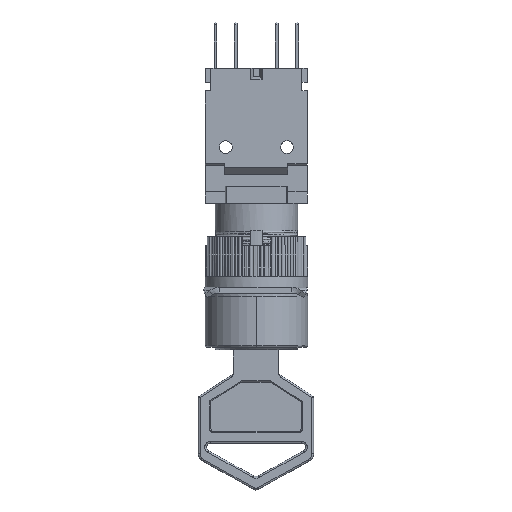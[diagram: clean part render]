
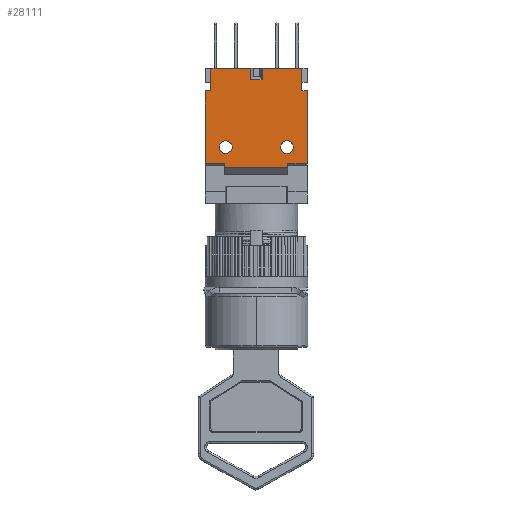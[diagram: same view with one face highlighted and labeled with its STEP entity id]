
A CAD part, front view. The second image highlights one B-rep face of the part: STEP entity #28111.
In plain terms, the highlighted planar face has unit normal (0, -1, 0).
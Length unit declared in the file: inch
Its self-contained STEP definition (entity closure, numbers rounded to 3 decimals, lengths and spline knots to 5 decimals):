
#7175=DIRECTION('',(0.,0.,1.));
#7176=VECTOR('',#7175,4.);
#7177=CARTESIAN_POINT('',(17.15,0.15,-12.2));
#7178=LINE('',#7177,#7176);
#7259=DIRECTION('',(-1.,0.,0.));
#7260=VECTOR('',#7259,1.);
#7261=CARTESIAN_POINT('',(18.15,0.15,-12.2));
#7262=LINE('',#7261,#7260);
#7275=DIRECTION('',(1.,0.,0.));
#7276=VECTOR('',#7275,7.05);
#7277=CARTESIAN_POINT('',(10.1,0.15,-8.2));
#7278=LINE('',#7277,#7276);
#7279=DIRECTION('',(0.,0.,-1.));
#7280=VECTOR('',#7279,12.9);
#7281=CARTESIAN_POINT('',(18.15,0.15,-12.2));
#7282=LINE('',#7281,#7280);
#7283=DIRECTION('',(0.,0.,-1.));
#7284=VECTOR('',#7283,0.75);
#7285=CARTESIAN_POINT('',(14.65,0.15,-25.1));
#7286=LINE('',#7285,#7284);
#7287=DIRECTION('',(0.,0.,1.));
#7288=VECTOR('',#7287,12.9);
#7289=CARTESIAN_POINT('',(0.05,0.15,-25.1));
#7290=LINE('',#7289,#7288);
#7291=DIRECTION('',(0.,0.,1.));
#7292=VECTOR('',#7291,4.);
#7293=CARTESIAN_POINT('',(1.05,0.15,-12.2));
#7294=LINE('',#7293,#7292);
#7295=DIRECTION('',(1.,0.,0.));
#7296=VECTOR('',#7295,7.05);
#7297=CARTESIAN_POINT('',(1.05,0.15,-8.2));
#7298=LINE('',#7297,#7296);
#7299=CARTESIAN_POINT('',(14.525,0.15,-22.165));
#7300=DIRECTION('',(0.,-1.,0.));
#7301=DIRECTION('',(-1.,0.,0.));
#7302=AXIS2_PLACEMENT_3D('',#7299,#7300,#7301);
#7304=CARTESIAN_POINT('',(14.525,0.15,-22.165));
#7305=DIRECTION('',(0.,-1.,0.));
#7306=DIRECTION('',(1.,0.,0.));
#7307=AXIS2_PLACEMENT_3D('',#7304,#7305,#7306);
#7309=CARTESIAN_POINT('',(3.675,0.15,-22.165));
#7310=DIRECTION('',(0.,-1.,0.));
#7311=DIRECTION('',(-1.,0.,0.));
#7312=AXIS2_PLACEMENT_3D('',#7309,#7310,#7311);
#7314=CARTESIAN_POINT('',(3.675,0.15,-22.165));
#7315=DIRECTION('',(0.,-1.,0.));
#7316=DIRECTION('',(1.,0.,0.));
#7317=AXIS2_PLACEMENT_3D('',#7314,#7315,#7316);
#7319=DIRECTION('',(0.,0.,-1.));
#7320=VECTOR('',#7319,2.);
#7321=CARTESIAN_POINT('',(10.1,0.15,-8.2));
#7322=LINE('',#7321,#7320);
#7323=DIRECTION('',(-1.,0.,0.));
#7324=VECTOR('',#7323,2.);
#7325=CARTESIAN_POINT('',(10.1,0.15,-10.2));
#7326=LINE('',#7325,#7324);
#7335=DIRECTION('',(0.,0.,1.));
#7336=VECTOR('',#7335,2.);
#7337=CARTESIAN_POINT('',(8.1,0.15,-10.2));
#7338=LINE('',#7337,#7336);
#7359=DIRECTION('',(1.,0.,0.));
#7360=VECTOR('',#7359,3.5);
#7361=CARTESIAN_POINT('',(14.65,0.15,-25.1));
#7362=LINE('',#7361,#7360);
#11698=DIRECTION('',(1.,0.,0.));
#11699=VECTOR('',#11698,3.4);
#11700=CARTESIAN_POINT('',(0.05,0.15,-25.1));
#11701=LINE('',#11700,#11699);
#11710=DIRECTION('',(0.,0.,-1.));
#11711=VECTOR('',#11710,0.75);
#11712=CARTESIAN_POINT('',(3.45,0.15,-25.1));
#11713=LINE('',#11712,#11711);
#11718=DIRECTION('',(1.,0.,0.));
#11719=VECTOR('',#11718,11.2);
#11720=CARTESIAN_POINT('',(3.45,0.15,-25.85));
#11721=LINE('',#11720,#11719);
#11766=DIRECTION('',(-1.,0.,0.));
#11767=VECTOR('',#11766,1.);
#11768=CARTESIAN_POINT('',(1.05,0.15,-12.2));
#11769=LINE('',#11768,#11767);
#17348=CARTESIAN_POINT('',(18.15,0.15,-25.1));
#17349=VERTEX_POINT('',#17348);
#17350=CARTESIAN_POINT('',(18.15,0.15,-12.2));
#17351=VERTEX_POINT('',#17350);
#17390=CARTESIAN_POINT('',(17.15,0.15,-8.2));
#17391=VERTEX_POINT('',#17390);
#17392=CARTESIAN_POINT('',(10.1,0.15,-8.2));
#17393=VERTEX_POINT('',#17392);
#17398=CARTESIAN_POINT('',(8.1,0.15,-8.2));
#17399=VERTEX_POINT('',#17398);
#17400=CARTESIAN_POINT('',(1.05,0.15,-8.2));
#17401=VERTEX_POINT('',#17400);
#18034=CARTESIAN_POINT('',(14.65,0.15,-25.1));
#18035=CARTESIAN_POINT('',(14.65,0.15,-25.85));
#18036=VERTEX_POINT('',#18034);
#18037=VERTEX_POINT('',#18035);
#18142=CARTESIAN_POINT('',(0.05,0.15,-12.2));
#18143=VERTEX_POINT('',#18142);
#18144=CARTESIAN_POINT('',(0.05,0.15,-25.1));
#18146=VERTEX_POINT('',#18144);
#18171=CARTESIAN_POINT('',(1.05,0.15,-12.2));
#18173=VERTEX_POINT('',#18171);
#18192=CARTESIAN_POINT('',(13.4,0.15,-22.165));
#18193=CARTESIAN_POINT('',(15.65,0.15,-22.165));
#18194=VERTEX_POINT('',#18192);
#18195=VERTEX_POINT('',#18193);
#18196=CARTESIAN_POINT('',(2.55,0.15,-22.165));
#18197=CARTESIAN_POINT('',(4.8,0.15,-22.165));
#18198=VERTEX_POINT('',#18196);
#18199=VERTEX_POINT('',#18197);
#18200=CARTESIAN_POINT('',(10.1,0.15,-10.2));
#18201=VERTEX_POINT('',#18200);
#18202=CARTESIAN_POINT('',(17.15,0.15,-12.2));
#18203=VERTEX_POINT('',#18202);
#18204=CARTESIAN_POINT('',(3.45,0.15,-25.85));
#18205=VERTEX_POINT('',#18204);
#18206=CARTESIAN_POINT('',(3.45,0.15,-25.1));
#18207=VERTEX_POINT('',#18206);
#18208=CARTESIAN_POINT('',(8.1,0.15,-10.2));
#18209=VERTEX_POINT('',#18208);
#28066=CARTESIAN_POINT('',(9.1,0.15,-17.025));
#28067=DIRECTION('',(0.,1.,0.));
#28068=DIRECTION('',(1.,0.,0.));
#28069=AXIS2_PLACEMENT_3D('',#28066,#28067,#28068);
#28070=PLANE('',#28069);
#28072=ORIENTED_EDGE('',*,*,#28071,.F.);
#28073=ORIENTED_EDGE('',*,*,#27778,.T.);
#28074=ORIENTED_EDGE('',*,*,#27923,.F.);
#28075=ORIENTED_EDGE('',*,*,#28058,.F.);
#28076=ORIENTED_EDGE('',*,*,#27482,.T.);
#28078=ORIENTED_EDGE('',*,*,#28077,.F.);
#28080=ORIENTED_EDGE('',*,*,#28079,.T.);
#28082=ORIENTED_EDGE('',*,*,#28081,.F.);
#28084=ORIENTED_EDGE('',*,*,#28083,.F.);
#28086=ORIENTED_EDGE('',*,*,#28085,.F.);
#28087=ORIENTED_EDGE('',*,*,#27615,.T.);
#28089=ORIENTED_EDGE('',*,*,#28088,.F.);
#28091=ORIENTED_EDGE('',*,*,#28090,.T.);
#28092=ORIENTED_EDGE('',*,*,#27786,.T.);
#28094=ORIENTED_EDGE('',*,*,#28093,.F.);
#28096=ORIENTED_EDGE('',*,*,#28095,.F.);
#28097=EDGE_LOOP('',(#28072,#28073,#28074,#28075,#28076,#28078,#28080,#28082,
#28084,#28086,#28087,#28089,#28091,#28092,#28094,#28096));
#28098=FACE_OUTER_BOUND('',#28097,.F.);
#28100=ORIENTED_EDGE('',*,*,#28099,.T.);
#28102=ORIENTED_EDGE('',*,*,#28101,.T.);
#28103=EDGE_LOOP('',(#28100,#28102));
#28104=FACE_BOUND('',#28103,.F.);
#28106=ORIENTED_EDGE('',*,*,#28105,.T.);
#28108=ORIENTED_EDGE('',*,*,#28107,.T.);
#28109=EDGE_LOOP('',(#28106,#28108));
#28110=FACE_BOUND('',#28109,.F.);
#28111=ADVANCED_FACE('',(#28098,#28104,#28110),#28070,.F.);
#7303=CIRCLE('',#7302,1.125);
#7308=CIRCLE('',#7307,1.125);
#7313=CIRCLE('',#7312,1.125);
#7318=CIRCLE('',#7317,1.125);
#27482=EDGE_CURVE('',#17351,#17349,#7282,.T.);
#27615=EDGE_CURVE('',#18146,#18143,#7290,.T.);
#27778=EDGE_CURVE('',#17393,#17391,#7278,.T.);
#27786=EDGE_CURVE('',#17401,#17399,#7298,.T.);
#27923=EDGE_CURVE('',#18203,#17391,#7178,.T.);
#28058=EDGE_CURVE('',#17351,#18203,#7262,.T.);
#28071=EDGE_CURVE('',#17393,#18201,#7322,.T.);
#28077=EDGE_CURVE('',#18036,#17349,#7362,.T.);
#28079=EDGE_CURVE('',#18036,#18037,#7286,.T.);
#28081=EDGE_CURVE('',#18205,#18037,#11721,.T.);
#28083=EDGE_CURVE('',#18207,#18205,#11713,.T.);
#28085=EDGE_CURVE('',#18146,#18207,#11701,.T.);
#28088=EDGE_CURVE('',#18173,#18143,#11769,.T.);
#28090=EDGE_CURVE('',#18173,#17401,#7294,.T.);
#28093=EDGE_CURVE('',#18209,#17399,#7338,.T.);
#28095=EDGE_CURVE('',#18201,#18209,#7326,.T.);
#28099=EDGE_CURVE('',#18194,#18195,#7303,.T.);
#28101=EDGE_CURVE('',#18195,#18194,#7308,.T.);
#28105=EDGE_CURVE('',#18198,#18199,#7313,.T.);
#28107=EDGE_CURVE('',#18199,#18198,#7318,.T.);
